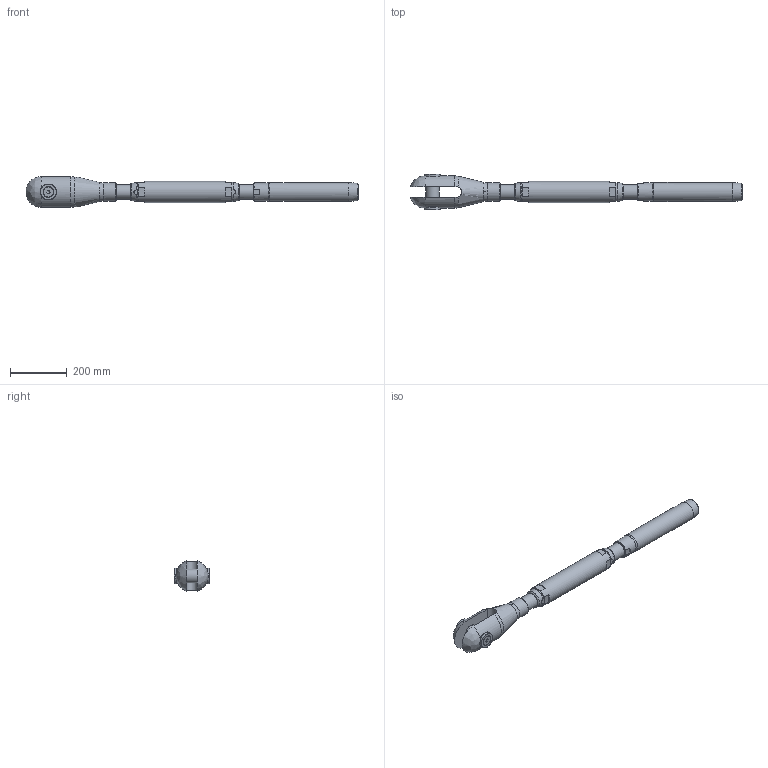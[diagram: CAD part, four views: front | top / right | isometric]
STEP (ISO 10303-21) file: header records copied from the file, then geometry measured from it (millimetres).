
FILE_DESCRIPTION(/* description */ (''),/* implementation_level */ '2;1');
FILE_NAME(/* name */ 'TBC 34_1,4462',/* time_stamp */ '2023-05-23T18:17:20+02:00',/* author */ (''),/* organization */ (''),/* preprocessor_version */ 'ST-DEVELOPER v16.5',/* originating_system */ 'Rhino 7.22',/* authorisation */ '');
FILE_SCHEMA (('CONFIG_CONTROL_DESIGN'));
Length unit declared in the file: millimetre
Products named in the file (1): Document
Bounding box: 1166.77 x 125.45 x 107.83 mm (x, y, z)
Volume: 4527091.1 mm3; surface area: 476075.3 mm2
Topology: 10 solids, 10 shells, 140 faces, 383 edges, 265 vertices
Faces by surface type: plane 65, bspline 40, cylinder 35
Full cylindrical faces by diameter (mm): 17.294 x2, 20 x2, 21 x2, 35.4 x2, 48 x1, 48.752 x4, 50 x2, 52 x2, 56 x3, 63.5 x2, 66.8 x1, 74 x1
Entity records: 5939 total; most frequent: CARTESIAN_POINT 3510, ORIENTED_EDGE 758, EDGE_CURVE 379, VERTEX_POINT 265, EDGE_LOOP 160, B_SPLINE_CURVE_WITH_KNOTS 157, ADVANCED_FACE 140, FACE_OUTER_BOUND 140
